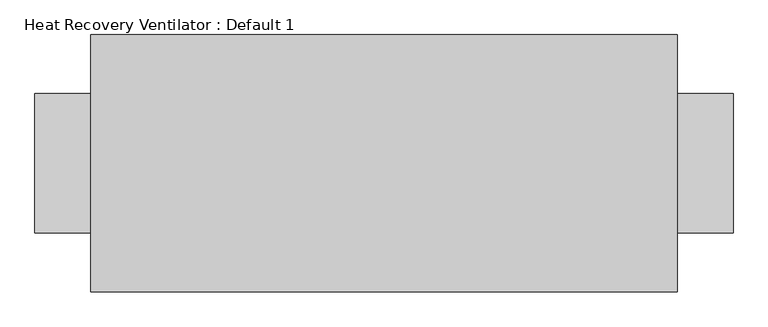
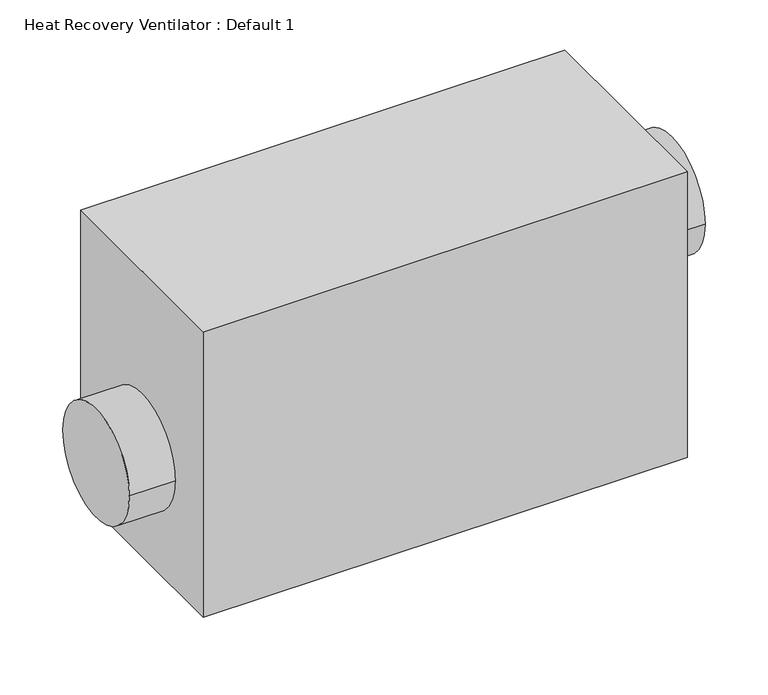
"""IFC4 building model written with IfcOpenShell, lengths in millimetres: proxy geometry, Heat Recovery Ventilator : Default 1."""

from ifc_helpers import new_model, si_unit, point, frame, frame_2d, origin, place, context, project, spatial, polyline, circle_curve, trimmed, segment, composite_curve, outline, extrude, source, transform, mapped, element, save


def heat_recovery_ventilator_default_1_52baffe3(model_context):
    return source(origin(), model_context, "Body", "SweptSolid", [
        extrude(outline(composite_curve([segment(trimmed(circle_curve(frame_2d((352.425, 1422.4)), 101.6), [point((250.825, 1422.4))], [point((454.025, 1422.4))], False, "CARTESIAN"), True, "CONTINUOUS"), segment(trimmed(circle_curve(frame_2d((352.425, 1422.4)), 101.6), [point((454.025, 1422.4))], [point((250.825, 1422.4))], False, "CARTESIAN"), True, "CONTINUOUS")], self_intersect=False)), frame((-383.0, 0.0, 0.0), z_axis=(1.0, 0.0, 0.0), x_axis=(0.0, 1.0, 0.0)), (0.0, 0.0, 1.0), 80.9625),
        extrude(outline(composite_curve([segment(trimmed(circle_curve(frame_2d((352.425, 1574.8)), 101.6), [point((250.825, 1574.8))], [point((454.025, 1574.8))], False, "CARTESIAN"), True, "CONTINUOUS"), segment(trimmed(circle_curve(frame_2d((352.425, 1574.8)), 101.6), [point((454.025, 1574.8))], [point((250.825, 1574.8))], False, "CARTESIAN"), True, "CONTINUOUS")], self_intersect=False)), frame((552.0375, 0.0, 0.0), z_axis=(1.0, 0.0, 0.0), x_axis=(0.0, 1.0, 0.0)), (0.0, 0.0, 1.0), 80.9625),
        extrude(outline(composite_curve([segment(trimmed(circle_curve(frame_2d((348.8375, 352.425)), 101.6), [point((450.4375, 352.425))], [point((247.2375, 352.425))], False, "CARTESIAN"), True, "CONTINUOUS"), segment(trimmed(circle_curve(frame_2d((348.8375, 352.425)), 101.6), [point((247.2375, 352.425))], [point((450.4375, 352.425))], False, "CARTESIAN"), True, "CONTINUOUS")], self_intersect=False)), frame((0.0, 0.0, 1168.4), z_axis=(0.0, 0.0, 1.0), x_axis=(1.0, 0.0, 0.0)), (0.0, 0.0, 1.0), 50.8),
        extrude(outline(composite_curve([segment(trimmed(circle_curve(frame_2d((-98.8375, 352.425)), 101.6), [point((-200.4375, 352.425))], [point((2.7625, 352.425))], False, "CARTESIAN"), True, "CONTINUOUS"), segment(trimmed(circle_curve(frame_2d((-98.8375, 352.425)), 101.6), [point((2.7625, 352.425))], [point((-200.4375, 352.425))], False, "CARTESIAN"), True, "CONTINUOUS")], self_intersect=False)), frame((0.0, 0.0, 1168.4), z_axis=(0.0, 0.0, 1.0), x_axis=(1.0, 0.0, 0.0)), (0.0, 0.0, 1.0), 50.8),
        extrude(outline(polyline([(552.0375, 539.75), (552.0375, 165.1), (-302.0375, 165.1), (-302.0375, 539.75), (552.0375, 539.75)])), frame((0.0, 0.0, 1219.2), z_axis=(0.0, 0.0, 1.0), x_axis=(1.0, 0.0, 0.0)), (0.0, 0.0, 1.0), 533.4),
    ])


if __name__ == "__main__":
    model = new_model("IFC4")
    model_context = context("Model", 3, world=origin())
    ifc_project = project(units=[si_unit("LENGTHUNIT", "METRE", prefix="MILLI")], contexts=[model_context])
    site = spatial("IfcSite", under=ifc_project)
    building = spatial("IfcBuilding", under=site)
    placement = place(None, origin())
    heat_recovery_ventilator_default_1_shape = heat_recovery_ventilator_default_1_52baffe3(model_context)
    element("IfcBuildingElementProxy", 1, Name="Heat Recovery Ventilator : Default 1", ObjectType="Heat Recovery Ventilator : Default 1", at=placement, inside=building, context=model_context, shape_type="MappedRepresentation", body=[
        mapped(heat_recovery_ventilator_default_1_shape, transform((0.0, 0.0, 0.0), x_axis=(1.0, 0.0, 0.0), y_axis=(0.0, 1.0, 0.0), z_axis=(0.0, 0.0, 1.0))),
    ])
    save(model, "model.ifc")
